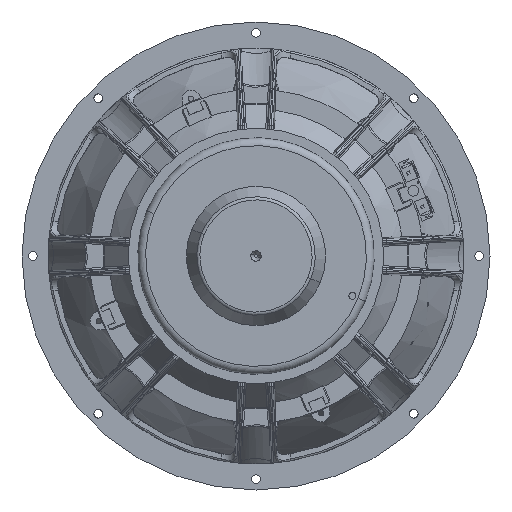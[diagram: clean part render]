
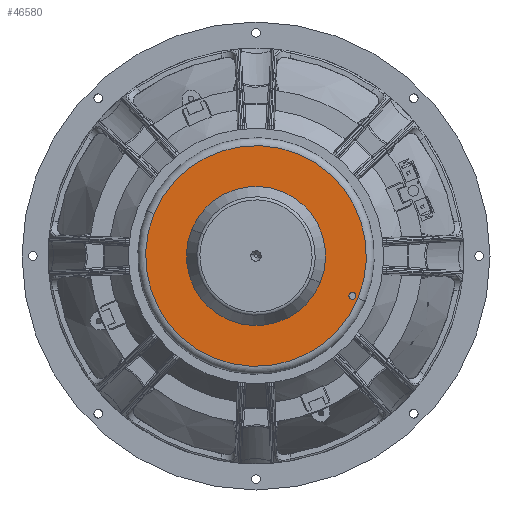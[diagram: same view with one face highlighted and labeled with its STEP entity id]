
A CAD part, front view. The second image highlights one B-rep face of the part: STEP entity #46580.
In plain terms, the highlighted planar face has unit normal (0, -1, 0).
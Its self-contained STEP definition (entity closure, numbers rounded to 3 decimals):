
#114 = EDGE_CURVE ( 'NONE', #34960, #61206, #34508, .T. ) ;
#1078 = CARTESIAN_POINT ( 'NONE',  ( 55.433, -61.1, -22.961 ) ) ;
#2535 = EDGE_CURVE ( 'NONE', #61206, #34960, #49523, .T. ) ;
#2550 = CIRCLE ( 'NONE', #39868, 40. ) ;
#4691 = FACE_OUTER_BOUND ( 'NONE', #11908, .T. ) ;
#4923 = ORIENTED_EDGE ( 'NONE', *, *, #12170, .T. ) ;
#5027 = CARTESIAN_POINT ( 'NONE',  ( 56.198, -61.1, -21.113 ) ) ;
#5061 = FACE_BOUND ( 'NONE', #8233, .T. ) ;
#8233 = EDGE_LOOP ( 'NONE', ( #4923, #50227 ) ) ;
#10919 = DIRECTION ( 'NONE',  ( 0., 1., 0. ) ) ;
#10940 = CARTESIAN_POINT ( 'NONE',  ( 54.667, -61.1, -24.809 ) ) ;
#11908 = EDGE_LOOP ( 'NONE', ( #64289, #37640 ) ) ;
#12170 = EDGE_CURVE ( 'NONE', #28359, #70961, #2550, .T. ) ;
#12401 = DIRECTION ( 'NONE',  ( -0.924, 0., 0.383 ) ) ;
#12794 = DIRECTION ( 'NONE',  ( -0.924, 0., 0.383 ) ) ;
#15650 = ORIENTED_EDGE ( 'NONE', *, *, #2535, .T. ) ;
#19001 = CARTESIAN_POINT ( 'NONE',  ( 0., -61.1, 0. ) ) ;
#19235 = CARTESIAN_POINT ( 'NONE',  ( 0., -61.1, 0. ) ) ;
#19382 = DIRECTION ( 'NONE',  ( -0.924, 0., 0.383 ) ) ;
#19456 = DIRECTION ( 'NONE',  ( 0., 1., 0. ) ) ;
#20057 = EDGE_LOOP ( 'NONE', ( #46558, #15650 ) ) ;
#20399 = DIRECTION ( 'NONE',  ( -0.924, 0., 0.383 ) ) ;
#20762 = DIRECTION ( 'NONE',  ( 0., -1., 0. ) ) ;
#21119 = CARTESIAN_POINT ( 'NONE',  ( -36.955, -61.1, 15.307 ) ) ;
#21310 = AXIS2_PLACEMENT_3D ( 'NONE', #68784, #39717, #34761 ) ;
#27235 = CIRCLE ( 'NONE', #41665, 40. ) ;
#27266 = VERTEX_POINT ( 'NONE', #52948 ) ;
#27723 = FACE_BOUND ( 'NONE', #20057, .T. ) ;
#28359 = VERTEX_POINT ( 'NONE', #21119 ) ;
#29542 = EDGE_CURVE ( 'NONE', #27266, #47967, #52319, .T. ) ;
#30316 = CARTESIAN_POINT ( 'NONE',  ( 36.955, -61.1, -15.307 ) ) ;
#30796 = EDGE_CURVE ( 'NONE', #47967, #27266, #66931, .T. ) ;
#32091 = AXIS2_PLACEMENT_3D ( 'NONE', #35536, #69928, #19382 ) ;
#34508 = CIRCLE ( 'NONE', #21310, 2. ) ;
#34761 = DIRECTION ( 'NONE',  ( -0.924, 0., 0.383 ) ) ;
#34960 = VERTEX_POINT ( 'NONE', #5027 ) ;
#35536 = CARTESIAN_POINT ( 'NONE',  ( 36.955, -61.1, -15.307 ) ) ;
#36179 = DIRECTION ( 'NONE',  ( 0., 1., 0. ) ) ;
#37519 = DIRECTION ( 'NONE',  ( -0.924, 0., 0.383 ) ) ;
#37640 = ORIENTED_EDGE ( 'NONE', *, *, #29542, .T. ) ;
#38100 = CARTESIAN_POINT ( 'NONE',  ( 0., -61.1, 0. ) ) ;
#39717 = DIRECTION ( 'NONE',  ( 0., 1., 0. ) ) ;
#39868 = AXIS2_PLACEMENT_3D ( 'NONE', #19235, #36179, #12794 ) ;
#41592 = AXIS2_PLACEMENT_3D ( 'NONE', #38100, #20762, #20399 ) ;
#41665 = AXIS2_PLACEMENT_3D ( 'NONE', #48079, #19456, #37519 ) ;
#46558 = ORIENTED_EDGE ( 'NONE', *, *, #114, .T. ) ;
#46580 = ADVANCED_FACE ( 'NONE', ( #4691, #27723, #5061 ), #51055, .F. ) ;
#47967 = VERTEX_POINT ( 'NONE', #49288 ) ;
#48079 = CARTESIAN_POINT ( 'NONE',  ( 0., -61.1, 0. ) ) ;
#49288 = CARTESIAN_POINT ( 'NONE',  ( -58.666, -61.1, 24.3 ) ) ;
#49523 = CIRCLE ( 'NONE', #59160, 2. ) ;
#50227 = ORIENTED_EDGE ( 'NONE', *, *, #71555, .T. ) ;
#51055 = PLANE ( 'NONE',  #32091 ) ;
#52319 = CIRCLE ( 'NONE', #63147, 63.5 ) ;
#52948 = CARTESIAN_POINT ( 'NONE',  ( 58.666, -61.1, -24.3 ) ) ;
#59160 = AXIS2_PLACEMENT_3D ( 'NONE', #1078, #10919, #12401 ) ;
#60443 = DIRECTION ( 'NONE',  ( 0., -1., 0. ) ) ;
#61206 = VERTEX_POINT ( 'NONE', #10940 ) ;
#63147 = AXIS2_PLACEMENT_3D ( 'NONE', #19001, #60443, #66123 ) ;
#64289 = ORIENTED_EDGE ( 'NONE', *, *, #30796, .T. ) ;
#66123 = DIRECTION ( 'NONE',  ( -0.924, 0., 0.383 ) ) ;
#66931 = CIRCLE ( 'NONE', #41592, 63.5 ) ;
#68784 = CARTESIAN_POINT ( 'NONE',  ( 55.433, -61.1, -22.961 ) ) ;
#69928 = DIRECTION ( 'NONE',  ( 0., 1., 0. ) ) ;
#70961 = VERTEX_POINT ( 'NONE', #30316 ) ;
#71555 = EDGE_CURVE ( 'NONE', #70961, #28359, #27235, .T. ) ;
